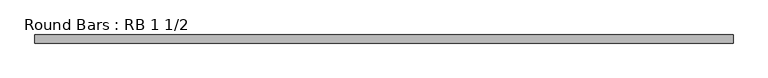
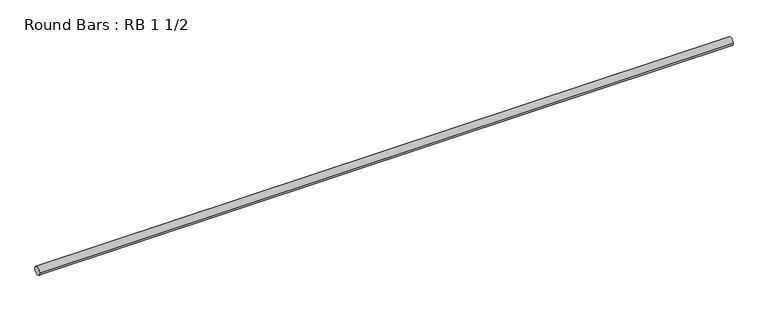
"""IFC4 building model written with IfcOpenShell, lengths in millimetres: member geometry, Round Bars : RB 1 1/2."""

from ifc_helpers import new_model, si_unit, point, frame, origin, origin_2d, place, context, project, spatial, circle_curve, trimmed, segment, composite_curve, outline, extrude, source, transform, mapped, element, save


def round_bars_rb_1_1_2_715cc5c4(model_context):
    return source(origin(), model_context, "Body", "SweptSolid", [
        extrude(outline(composite_curve([segment(trimmed(circle_curve(origin_2d(), 19.05), [point((19.05, 0.0))], [point((-19.05, 0.0))], False, "CARTESIAN"), True, "CONTINUOUS"), segment(trimmed(circle_curve(origin_2d(), 19.05), [point((-19.05, 0.0))], [point((19.05, 0.0))], False, "CARTESIAN"), True, "CONTINUOUS")], self_intersect=False)), frame((-1670.3789911, 0.0, 0.0), z_axis=(1.0, 0.0, 0.0), x_axis=(0.0, 1.0, 0.0)), (0.0, 0.0, 1.0), 3276.2174529),
    ])


if __name__ == "__main__":
    model = new_model("IFC4")
    model_context = context("Model", 3, world=origin())
    ifc_project = project(units=[si_unit("LENGTHUNIT", "METRE", prefix="MILLI")], contexts=[model_context])
    site = spatial("IfcSite", under=ifc_project)
    building = spatial("IfcBuilding", under=site)
    placement = place(None, origin())
    round_bars_rb_1_1_2_shape = round_bars_rb_1_1_2_715cc5c4(model_context)
    element("IfcMember", 1, ObjectType="Round Bars : RB 1 1/2", at=placement, inside=building, context=model_context, shape_type="MappedRepresentation", body=[
        mapped(round_bars_rb_1_1_2_shape, transform((0.0, 0.0, 0.0), x_axis=(1.0, 0.0, 0.0), y_axis=(0.0, 1.0, 0.0), z_axis=(0.0, 0.0, 1.0))),
    ])
    save(model, "model.ifc")
